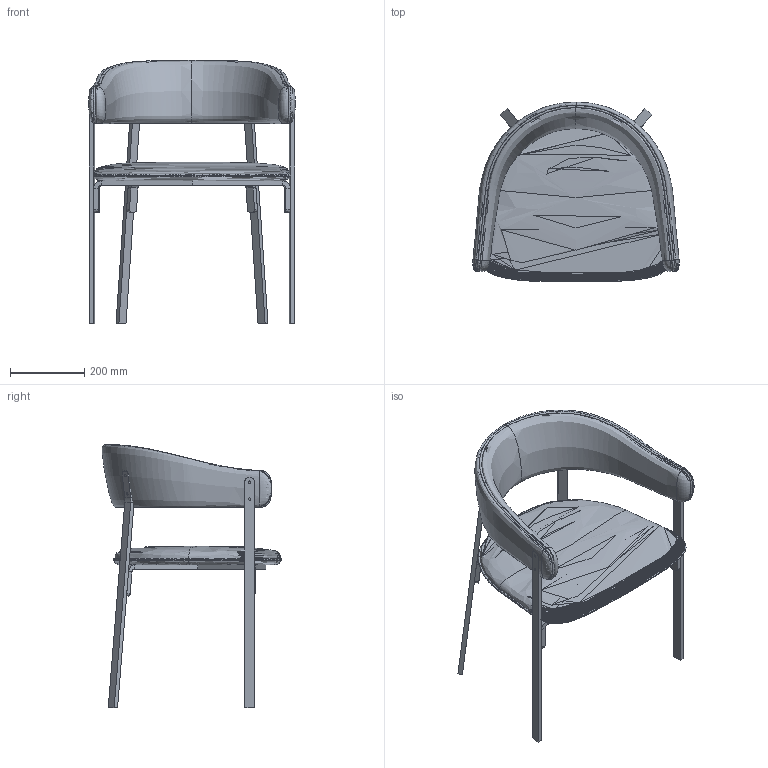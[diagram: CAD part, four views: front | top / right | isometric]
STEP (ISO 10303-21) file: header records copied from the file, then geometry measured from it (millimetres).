
FILE_DESCRIPTION(/* description */ (''),/* implementation_level */ '2;1');
FILE_NAME(/* name */ 'KINOSH~3',/* time_stamp */ '2018-10-27T13:36:58+09:00',/* author */ (''),/* organization */ (''),/* preprocessor_version */ 'ST-DEVELOPER v15',/* originating_system */ '',/* authorisation */ '');
FILE_SCHEMA (('AUTOMOTIVE_DESIGN'));
Length unit declared in the file: millimetre
Products named in the file (1): Document
Bounding box: 557.37 x 484.63 x 709.94 mm (x, y, z)
Volume: 6188221.9 mm3; surface area: 1687968 mm2
Topology: 11 solids, 16 shells, 230 faces, 555 edges, 326 vertices
Faces by surface type: bspline 200, plane 30
Entity records: 33841 total; most frequent: CARTESIAN_POINT 30599, ORIENTED_EDGE 1050, EDGE_CURVE 541, VERTEX_POINT 326, B_SPLINE_CURVE_WITH_KNOTS 322, EDGE_LOOP 262, ADVANCED_FACE 230, FACE_OUTER_BOUND 230
